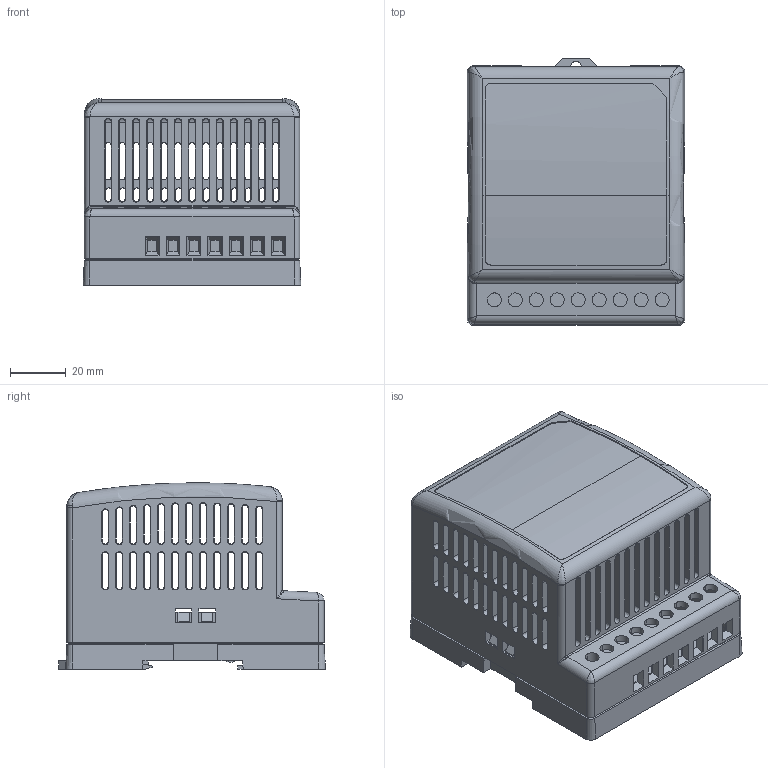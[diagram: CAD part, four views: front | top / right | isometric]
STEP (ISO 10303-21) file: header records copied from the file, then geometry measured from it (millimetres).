
FILE_DESCRIPTION(('OneSpaceDesigner STEP Export'),'2;1');
FILE_NAME('DR-45.stp','2010-06-08T16:08:10',(''),(''),'OneSpace Designer STEP processor for AP214 (Solid Model)','OneSpace Designer 13.20 11-May-2005 (C) CoCreate Software GmbH','');
FILE_SCHEMA(('AUTOMOTIVE_DESIGN { 1 0 10303 214 1 1 1 1 }'));
Length unit declared in the file: millimetre
Products named in the file (2): Up-cover; DR-45
Assembly tree (1 placements, depth 2):
  DR-45
    Up-cover
Bounding box: 77.93 x 95.47 x 66.7 mm (x, y, z)
Volume: 66990.5 mm3; surface area: 75341.9 mm2
Topology: 1 solids, 3 shells, 967 faces, 2788 edges, 1819 vertices
Faces by surface type: plane 634, cone 192, cylinder 120, bspline 16, torus 5
Entity records: 32278 total; most frequent: CARTESIAN_POINT 6637, ORIENTED_EDGE 5562, DIRECTION 4955, EDGE_CURVE 2780, VECTOR 2091, LINE 2091, VERTEX_POINT 1819, AXIS2_PLACEMENT_3D 1432
